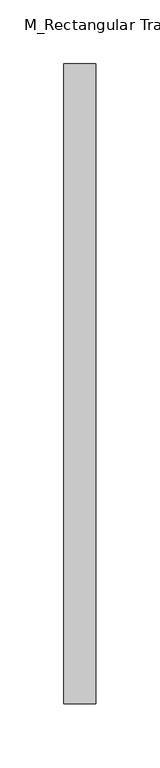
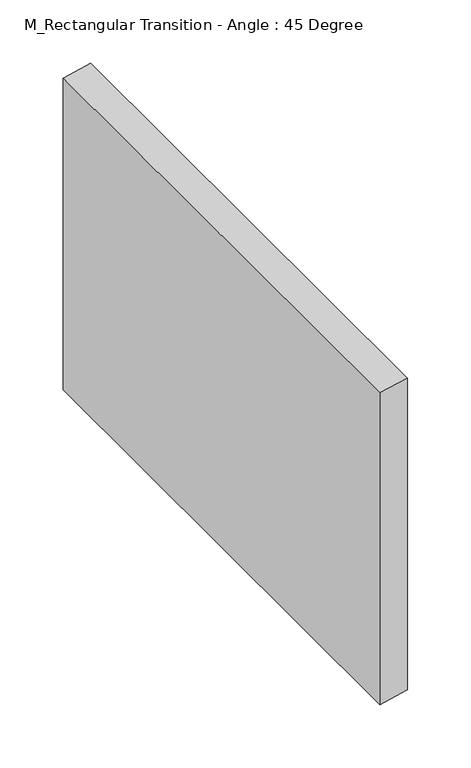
"""IFC4 building model written with IfcOpenShell, lengths in millimetres: duct fitting geometry, M_Rectangular Transition - Angle : 45 Degree."""

from ifc_helpers import new_model, si_unit, origin, place, context, project, spatial, faceted_brep, source, transform, mapped, element, save


def m_rectangular_transition_angle_45_degree_8d40617b(model_context):
    return source(origin(), model_context, "Body", "Brep", [
        faceted_brep([(25.0, 249.9999745, 155.3741303), (25.0, -250.0000255, 155.3741303), (25.0, -250.0000255, -144.6258697), (25.0, 249.9999745, -144.6258697), (0.0, 250.0, 150.0), (0.0, 250.0, -150.0), (0.0, -250.0, -150.0), (0.0, -250.0, 150.0)], [[[0, 1, 2, 3]], [[4, 5, 6, 7]], [[4, 0, 3, 5]], [[5, 3, 2, 6]], [[6, 2, 1, 7]], [[7, 1, 0, 4]]]),
    ])


if __name__ == "__main__":
    model = new_model("IFC4")
    model_context = context("Model", 3, world=origin())
    ifc_project = project(units=[si_unit("LENGTHUNIT", "METRE", prefix="MILLI")], contexts=[model_context])
    site = spatial("IfcSite", under=ifc_project)
    building = spatial("IfcBuilding", under=site)
    placement = place(None, origin())
    m_rectangular_transition_angle_45_degree_shape = m_rectangular_transition_angle_45_degree_8d40617b(model_context)
    element("IfcDuctFitting", 1, ObjectType="M_Rectangular Transition - Angle : 45 Degree", at=placement, inside=building, context=model_context, shape_type="MappedRepresentation", body=[
        mapped(m_rectangular_transition_angle_45_degree_shape, transform((0.0, 0.0, 0.0), x_axis=(1.0, 0.0, 0.0), y_axis=(0.0, 1.0, 0.0), z_axis=(0.0, 0.0, 1.0))),
    ])
    save(model, "model.ifc")
